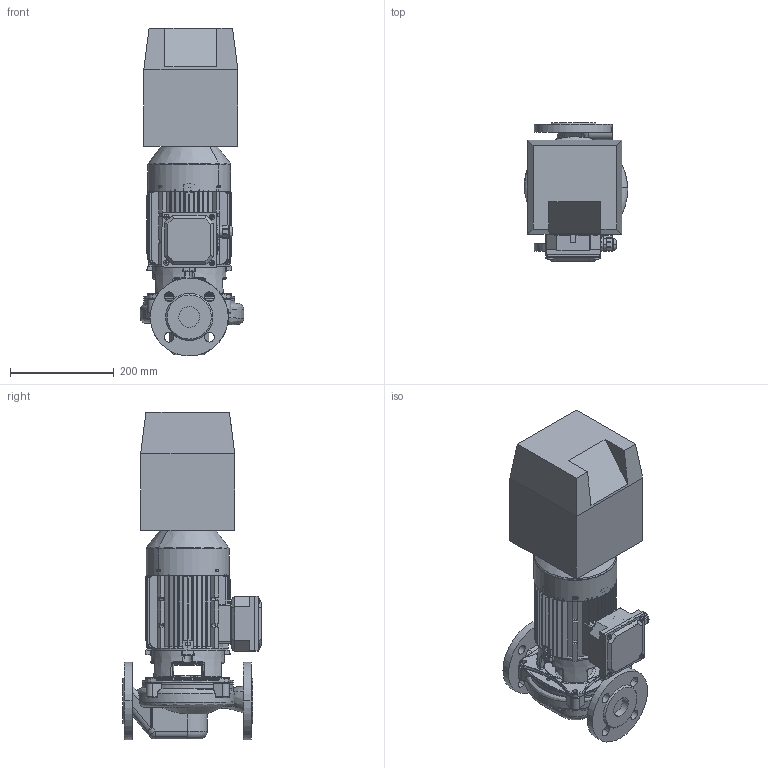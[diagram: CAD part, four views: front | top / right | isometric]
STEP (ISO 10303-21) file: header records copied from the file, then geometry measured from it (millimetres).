
FILE_DESCRIPTION(('STEP AP214'),'1');
FILE_NAME('export.stp','2018-08-09T05:22:54',(' '),(' '),'Spatial InterOp 3D',' ',' ');
FILE_SCHEMA(('AUTOMOTIVE_DESIGN { 1 0 10303 214 1 1 1 1 }'));
Length unit declared in the file: millimetre
Products named in the file (20): W_L40A2NC110KP; V_TLAEAP3233L40A; V_PPL40A; 160029; 160001; V_MKP80-1_N13; 160141; 160137; 160138; 160139; 160140; Koura_Ale_M5; Plug_Blind_M20; Sealing_Plug_M20; DIN_7985-M5X8; DIN_7985-M5X12; 480032; 480031___; 160133; NC_Size1
Assembly tree (22 placements, depth 4):
  W_L40A2NC110KP
    V_TLAEAP3233L40A
    V_PPL40A
    V_MKP80-1_N13
      160029
        160001
      160141
        160137
        160138
        160139
        160140
        Koura_Ale_M5
        Plug_Blind_M20
        Sealing_Plug_M20
        DIN_7985-M5X8
        DIN_7985-M5X12  x4
      480032
        480031___
      160133
    NC_Size1
Bounding box: 199.48 x 266.5 x 631.5 mm (x, y, z)
Volume: 10304304.2 mm3; surface area: 1100481.1 mm2
Topology: 18 solids, 18 shells, 2056 faces, 5568 edges, 3526 vertices
Faces by surface type: plane 892, cylinder 596, torus 229, bspline 176, cone 139, sphere 24
Entity records: 80579 total; most frequent: CARTESIAN_POINT 27866, ORIENTED_EDGE 10744, DIRECTION 9894, EDGE_CURVE 5372, AXIS2_PLACEMENT_3D 3727, VERTEX_POINT 3430, LINE 2440, VECTOR 2440
